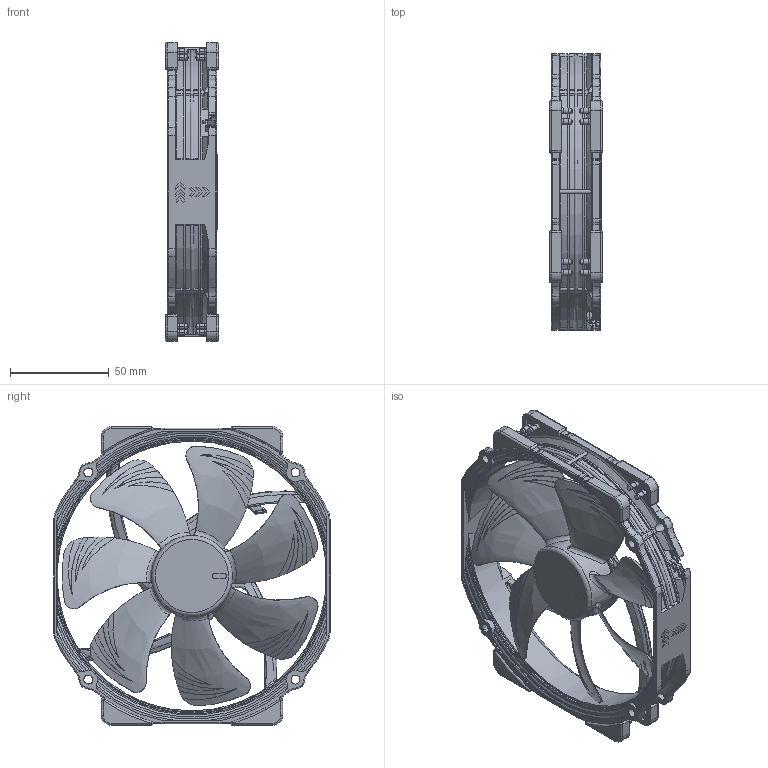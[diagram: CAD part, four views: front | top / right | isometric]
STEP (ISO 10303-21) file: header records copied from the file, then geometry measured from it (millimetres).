
FILE_DESCRIPTION(/* description */ ('140mm Desk Fan'),/* implementation_level */ '2;1');
FILE_NAME(/* name */ 'NF-A15_Chromax_Public-CAD',/* time_stamp */ '2026-04-10T15:23:56+02:00',/* author */ ('Andreas'),/* organization */ ('Rascom'),/* preprocessor_version */ 'ST-DEVELOPER v18.102',/* originating_system */ 'Solid Edge',/* authorisation */ 'Unknown');
FILE_SCHEMA (('FEATURE_BASED_PROCESS_PLANNING','AUTOMOTIVE_DESIGN {1 0 10303 214 3 1 1}'));
Products named in the file (7): NF-A15_Chromax_Public-CAD; NF-A15_Public-CAD; NF-A15_frame-public; A14_Impeller_Public; NA-AVP3a; NA-AVP3b; Fan-Label-D38mm-Chromax
Assembly tree (12 placements, depth 3):
  NF-A15_Chromax_Public-CAD
    NF-A15_Public-CAD
      NF-A15_frame-public
      A14_Impeller_Public
      NA-AVP3a  x4
      NA-AVP3b  x4
    Fan-Label-D38mm-Chromax
Bounding box: 27 x 140.1 x 151.22 mm (x, y, z)
Volume: 91670.9 mm3; surface area: 82270.4 mm2
Topology: 11 solids, 11 shells, 2107 faces, 7441 edges, 5377 vertices
Faces by surface type: cylinder 794, plane 718, bspline 215, torus 215, cone 127, sphere 38
Full cylindrical faces by diameter (mm): 38 x1, 41 x1
Entity records: 68001 total; most frequent: CARTESIAN_POINT 27795, ORIENTED_EDGE 8976, DIRECTION 7848, EDGE_CURVE 4488, AXIS2_PLACEMENT_3D 3210, VERTEX_POINT 3009, CIRCLE 1887, EDGE_LOOP 1609
